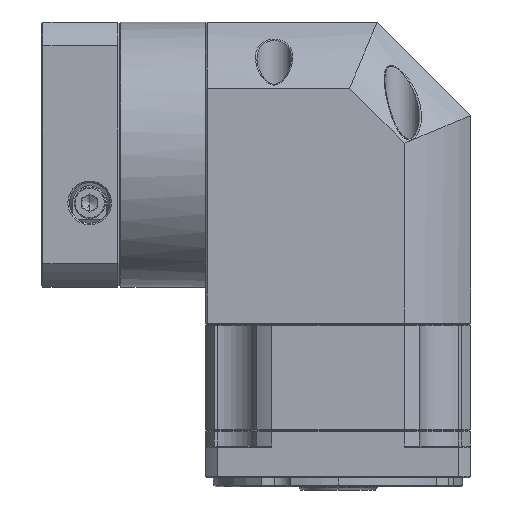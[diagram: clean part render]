
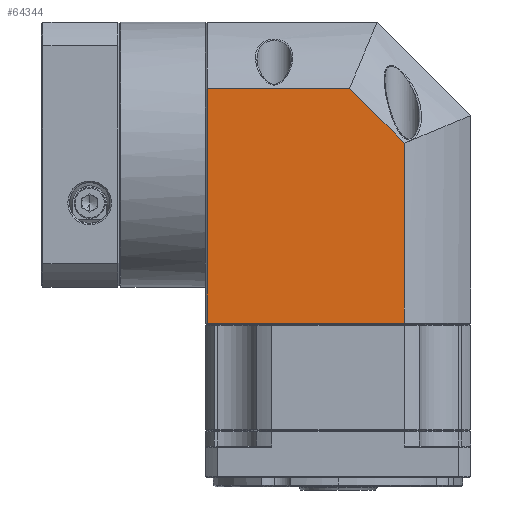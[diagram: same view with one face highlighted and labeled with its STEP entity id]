
A CAD part, left-side view. The second image highlights one B-rep face of the part: STEP entity #64344.
In plain terms, the highlighted planar face has unit normal (-1, 0, 0).
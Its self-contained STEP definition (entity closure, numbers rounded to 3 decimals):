
#1891 = FACE_OUTER_BOUND ( 'NONE', #88089, .T. ) ;
#9824 = VERTEX_POINT ( 'NONE', #110864 ) ;
#15063 = PLANE ( 'NONE',  #81740 ) ;
#15933 = ORIENTED_EDGE ( 'NONE', *, *, #153838, .F. ) ;
#17796 = VECTOR ( 'NONE', #155479, 1000. ) ;
#19552 = VERTEX_POINT ( 'NONE', #97413 ) ;
#19617 = ORIENTED_EDGE ( 'NONE', *, *, #140076, .F. ) ;
#25154 = VECTOR ( 'NONE', #60247, 1000. ) ;
#30531 = VERTEX_POINT ( 'NONE', #45042 ) ;
#33994 = CARTESIAN_POINT ( 'NONE',  ( -65.225, 47.215, 134. ) ) ;
#34268 = VERTEX_POINT ( 'NONE', #130403 ) ;
#37829 = CARTESIAN_POINT ( 'NONE',  ( -65.225, -16.498, 234. ) ) ;
#45042 = CARTESIAN_POINT ( 'NONE',  ( -65.225, 1.033, 209.213 ) ) ;
#48488 = ORIENTED_EDGE ( 'NONE', *, *, #147476, .F. ) ;
#53825 = ORIENTED_EDGE ( 'NONE', *, *, #114192, .F. ) ;
#53963 = DIRECTION ( 'NONE',  ( 0., 0., 1. ) ) ;
#55250 = DIRECTION ( 'NONE',  ( 0., -0.707, -0.707 ) ) ;
#60247 = DIRECTION ( 'NONE',  ( 0., -1., 0. ) ) ;
#62836 = EDGE_CURVE ( 'NONE', #87265, #19552, #125225, .T. ) ;
#64344 = ADVANCED_FACE ( 'NONE', ( #1891 ), #15063, .F. ) ;
#68141 = DIRECTION ( 'NONE',  ( 1., 0., 0. ) ) ;
#81740 = AXIS2_PLACEMENT_3D ( 'NONE', #146352, #68141, #159488 ) ;
#85025 = CARTESIAN_POINT ( 'NONE',  ( -65.225, 46.715, 134. ) ) ;
#87265 = VERTEX_POINT ( 'NONE', #85025 ) ;
#88089 = EDGE_LOOP ( 'NONE', ( #151034, #19617, #53825, #15933, #48488 ) ) ;
#97413 = CARTESIAN_POINT ( 'NONE',  ( -65.225, -16.498, 134. ) ) ;
#99965 = CARTESIAN_POINT ( 'NONE',  ( -65.225, 47.215, 209.213 ) ) ;
#102776 = LINE ( 'NONE', #105352, #168123 ) ;
#103664 = LINE ( 'NONE', #99965, #134300 ) ;
#105352 = CARTESIAN_POINT ( 'NONE',  ( -65.225, 46.715, 230.5 ) ) ;
#108415 = VECTOR ( 'NONE', #55250, 1000. ) ;
#110864 = CARTESIAN_POINT ( 'NONE',  ( -65.225, 46.715, 209.213 ) ) ;
#114192 = EDGE_CURVE ( 'NONE', #30531, #34268, #138999, .T. ) ;
#125225 = LINE ( 'NONE', #33994, #25154 ) ;
#126162 = DIRECTION ( 'NONE',  ( 0., -1., 0. ) ) ;
#130403 = CARTESIAN_POINT ( 'NONE',  ( -65.225, -16.498, 191.683 ) ) ;
#134300 = VECTOR ( 'NONE', #126162, 1000. ) ;
#138999 = LINE ( 'NONE', #159176, #108415 ) ;
#140076 = EDGE_CURVE ( 'NONE', #34268, #19552, #152669, .T. ) ;
#146352 = CARTESIAN_POINT ( 'NONE',  ( -65.225, 47.215, 230.5 ) ) ;
#147476 = EDGE_CURVE ( 'NONE', #87265, #9824, #102776, .T. ) ;
#151034 = ORIENTED_EDGE ( 'NONE', *, *, #62836, .T. ) ;
#152669 = LINE ( 'NONE', #37829, #17796 ) ;
#153838 = EDGE_CURVE ( 'NONE', #9824, #30531, #103664, .T. ) ;
#155479 = DIRECTION ( 'NONE',  ( 0., 0., -1. ) ) ;
#159176 = CARTESIAN_POINT ( 'NONE',  ( -65.225, 1.033, 209.213 ) ) ;
#159488 = DIRECTION ( 'NONE',  ( 0., 1., 0. ) ) ;
#168123 = VECTOR ( 'NONE', #53963, 1000. ) ;
